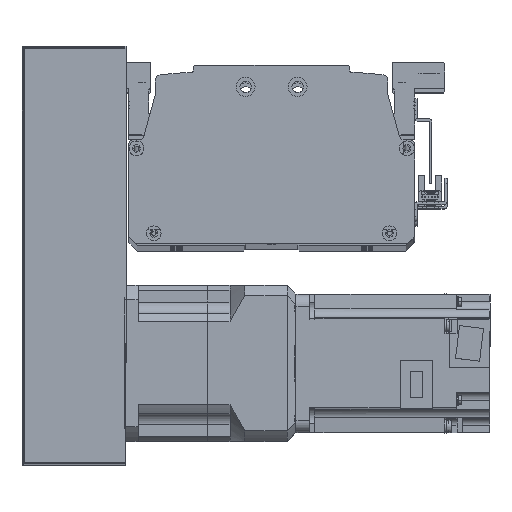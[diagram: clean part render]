
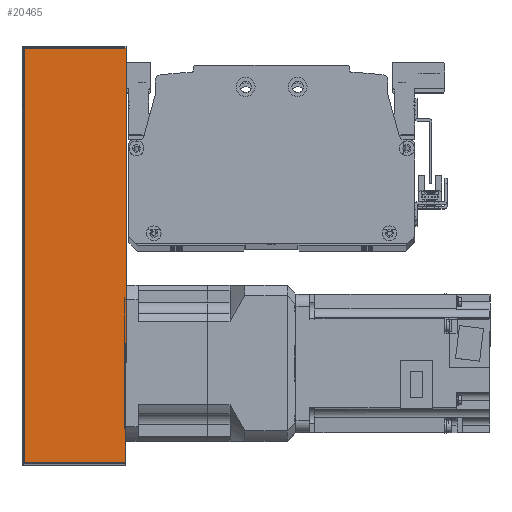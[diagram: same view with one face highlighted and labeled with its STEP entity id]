
A CAD part, top view. The second image highlights one B-rep face of the part: STEP entity #20465.
In plain terms, the highlighted planar face has unit normal (0, 0, 1) as drawn and (0, 1, 0) by its records, which use the part's own axes.
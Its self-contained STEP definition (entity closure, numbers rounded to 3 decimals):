
#609=PLANE('',#22359);
#1737=LINE('',#32965,#3397);
#1759=LINE('',#33058,#3419);
#1761=LINE('',#33068,#3421);
#1763=LINE('',#33071,#3423);
#3397=VECTOR('',#26708,10.);
#3419=VECTOR('',#26828,10.);
#3421=VECTOR('',#26842,10.);
#3423=VECTOR('',#26846,10.);
#5482=FACE_OUTER_BOUND('',#6986,.T.);
#6986=EDGE_LOOP('',(#16632,#16633,#16634,#16635));
#9932=VERTEX_POINT('',#32962);
#9933=VERTEX_POINT('',#32964);
#9954=VERTEX_POINT('',#33052);
#9957=VERTEX_POINT('',#33064);
#12330=EDGE_CURVE('',#9932,#9933,#1737,.T.);
#12378=EDGE_CURVE('',#9954,#9932,#1759,.T.);
#12383=EDGE_CURVE('',#9933,#9957,#1761,.T.);
#12385=EDGE_CURVE('',#9957,#9954,#1763,.T.);
#16632=ORIENTED_EDGE('',*,*,#12378,.F.);
#16633=ORIENTED_EDGE('',*,*,#12385,.F.);
#16634=ORIENTED_EDGE('',*,*,#12383,.F.);
#16635=ORIENTED_EDGE('',*,*,#12330,.F.);
#20465=ADVANCED_FACE('',(#5482),#609,.T.);
#22359=AXIS2_PLACEMENT_3D('',#33077,#26854,#26855);
#26708=DIRECTION('',(-1.,0.,0.));
#26828=DIRECTION('',(0.,0.,1.));
#26842=DIRECTION('',(0.,0.,-1.));
#26846=DIRECTION('',(1.,0.,0.));
#26854=DIRECTION('center_axis',(0.,1.,0.));
#26855=DIRECTION('ref_axis',(-1.,0.,0.));
#32962=CARTESIAN_POINT('',(120.,51.,30.));
#32964=CARTESIAN_POINT('',(-120.,51.,30.));
#32965=CARTESIAN_POINT('',(-121.,51.,30.));
#33052=CARTESIAN_POINT('',(120.,51.,-29.));
#33058=CARTESIAN_POINT('',(120.,51.,0.));
#33064=CARTESIAN_POINT('',(-120.,51.,-29.));
#33068=CARTESIAN_POINT('',(-120.,51.,0.));
#33071=CARTESIAN_POINT('',(60.5,51.,-29.));
#33077=CARTESIAN_POINT('Origin',(121.,51.,0.));
